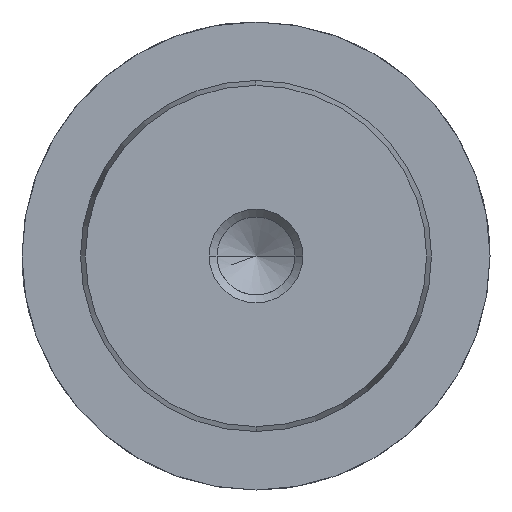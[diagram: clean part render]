
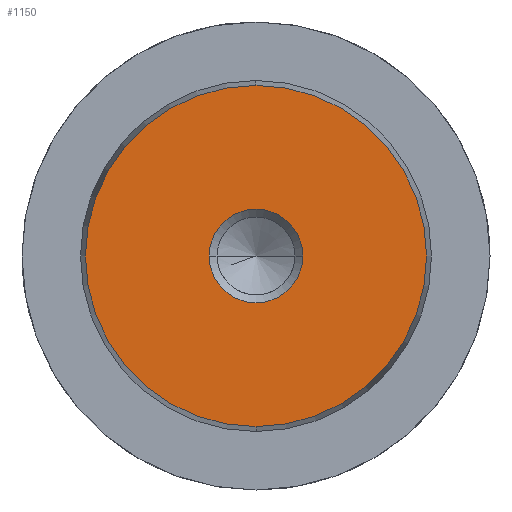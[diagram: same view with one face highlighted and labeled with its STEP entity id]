
A CAD part, left-side view. The second image highlights one B-rep face of the part: STEP entity #1150.
In plain terms, the highlighted planar face has unit normal (-1, 0, 0).
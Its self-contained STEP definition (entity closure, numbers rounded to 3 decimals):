
#1064=CARTESIAN_POINT('Vertex',(0.,0.,-14.578)) ;
#1067=CARTESIAN_POINT('Axis2P3D Location',(0.,0.,0.)) ;
#1071=CARTESIAN_POINT('Vertex',(0.,14.578,0.)) ;
#1074=CARTESIAN_POINT('Axis2P3D Location',(0.,0.,0.)) ;
#1078=CARTESIAN_POINT('Vertex',(0.,0.,14.578)) ;
#1100=CARTESIAN_POINT('Axis2P3D Location',(0.,0.,0.)) ;
#1104=CARTESIAN_POINT('Vertex',(0.,-14.578,0.)) ;
#1107=CARTESIAN_POINT('Axis2P3D Location',(0.,0.,0.)) ;
#1121=CARTESIAN_POINT('Axis2P3D Location',(0.,0.,0.)) ;
#1132=CARTESIAN_POINT('Axis2P3D Location',(0.,0.,0.)) ;
#1136=CARTESIAN_POINT('Vertex',(0.,4.,0.)) ;
#1138=CARTESIAN_POINT('Vertex',(0.,-4.,0.)) ;
#1141=CARTESIAN_POINT('Axis2P3D Location',(0.,0.,0.)) ;
#1068=DIRECTION('Axis2P3D Direction',(1.,0.,-0.)) ;
#1075=DIRECTION('Axis2P3D Direction',(1.,0.,-0.)) ;
#1101=DIRECTION('Axis2P3D Direction',(1.,0.,-0.)) ;
#1108=DIRECTION('Axis2P3D Direction',(1.,0.,-0.)) ;
#1122=DIRECTION('Axis2P3D Direction',(1.,0.,-0.)) ;
#1123=DIRECTION('Axis2P3D XDirection',(-0.,0.,-1.)) ;
#1133=DIRECTION('Axis2P3D Direction',(1.,0.,-0.)) ;
#1142=DIRECTION('Axis2P3D Direction',(1.,0.,-0.)) ;
#1069=AXIS2_PLACEMENT_3D('Circle Axis2P3D',#1067,#1068,$) ;
#1076=AXIS2_PLACEMENT_3D('Circle Axis2P3D',#1074,#1075,$) ;
#1102=AXIS2_PLACEMENT_3D('Circle Axis2P3D',#1100,#1101,$) ;
#1109=AXIS2_PLACEMENT_3D('Circle Axis2P3D',#1107,#1108,$) ;
#1124=AXIS2_PLACEMENT_3D('Plane Axis2P3D',#1121,#1122,#1123) ;
#1134=AXIS2_PLACEMENT_3D('Circle Axis2P3D',#1132,#1133,$) ;
#1143=AXIS2_PLACEMENT_3D('Circle Axis2P3D',#1141,#1142,$) ;
#1127=ORIENTED_EDGE('',*,*,#1073,.F.) ;
#1128=ORIENTED_EDGE('',*,*,#1111,.F.) ;
#1129=ORIENTED_EDGE('',*,*,#1106,.F.) ;
#1130=ORIENTED_EDGE('',*,*,#1080,.F.) ;
#1147=ORIENTED_EDGE('',*,*,#1140,.T.) ;
#1148=ORIENTED_EDGE('',*,*,#1145,.T.) ;
#1149=FACE_BOUND('',#1146,.T.) ;
#1150=ADVANCED_FACE('718-30x160',(#1131,#1149),#1125,.F.) ;
#1070=CIRCLE('generated circle',#1069,14.578) ;
#1077=CIRCLE('generated circle',#1076,14.578) ;
#1103=CIRCLE('generated circle',#1102,14.578) ;
#1110=CIRCLE('generated circle',#1109,14.578) ;
#1135=CIRCLE('generated circle',#1134,4.) ;
#1144=CIRCLE('generated circle',#1143,4.) ;
#1073=EDGE_CURVE('',#1065,#1072,#1070,.T.) ;
#1080=EDGE_CURVE('',#1072,#1079,#1077,.T.) ;
#1106=EDGE_CURVE('',#1079,#1105,#1103,.T.) ;
#1111=EDGE_CURVE('',#1105,#1065,#1110,.T.) ;
#1140=EDGE_CURVE('',#1137,#1139,#1135,.T.) ;
#1145=EDGE_CURVE('',#1139,#1137,#1144,.T.) ;
#1126=EDGE_LOOP('',(#1127,#1128,#1129,#1130)) ;
#1146=EDGE_LOOP('',(#1147,#1148)) ;
#1131=FACE_OUTER_BOUND('',#1126,.T.) ;
#1125=PLANE('Plane',#1124) ;
#1065=VERTEX_POINT('',#1064) ;
#1072=VERTEX_POINT('',#1071) ;
#1079=VERTEX_POINT('',#1078) ;
#1105=VERTEX_POINT('',#1104) ;
#1137=VERTEX_POINT('',#1136) ;
#1139=VERTEX_POINT('',#1138) ;
